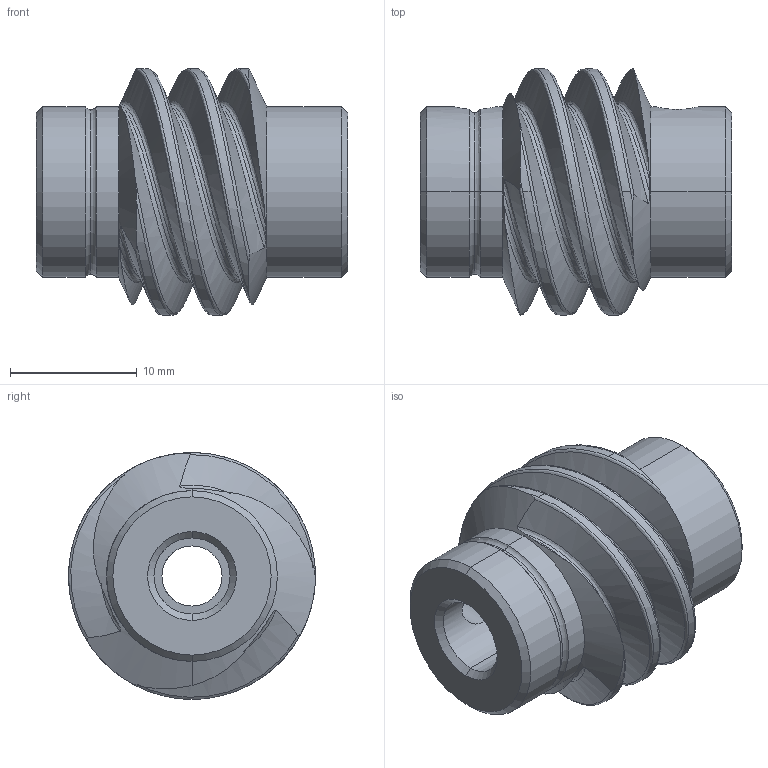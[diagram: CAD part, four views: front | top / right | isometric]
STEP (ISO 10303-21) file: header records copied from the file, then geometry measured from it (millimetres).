
FILE_DESCRIPTION(/* description */ (''),/* implementation_level */ '2;1');
FILE_NAME(/* name */ 'D:\FIRST\FTC KOP 2017\FTC 2017 KOP\Tetrix STEP\Miscellaneous\Tetrix_39375_Worm.ipt.step',/* time_stamp */ '2017-01-03T09:05:36-08:00',/* author */ ('Autodesk Inc.'),/* organization */ ('Autodesk Inc.'),/* preprocessor_version */ 'ST-DEVELOPER v16.5',/* originating_system */ 'Autodesk Inventor 2017',/* authorisation */ '');
FILE_SCHEMA (('AUTOMOTIVE_DESIGN { 1 0 10303 214 3 1 1 }'));
Length unit declared in the file: millimetre
Products named in the file (1): 739375
Bounding box: 24.6 x 19.5 x 19.5 mm (x, y, z)
Volume: 3747.6 mm3; surface area: 2466 mm2
Topology: 1 solids, 1 shells, 63 faces, 165 edges, 104 vertices
Faces by surface type: cylinder 24, bspline 18, cone 12, torus 6, plane 3
Entity records: 9567 total; most frequent: CARTESIAN_POINT 8179, ORIENTED_EDGE 330, DIRECTION 220, EDGE_CURVE 165, VERTEX_POINT 104, AXIS2_PLACEMENT_3D 95, B_SPLINE_CURVE_WITH_KNOTS 74, EDGE_LOOP 69
